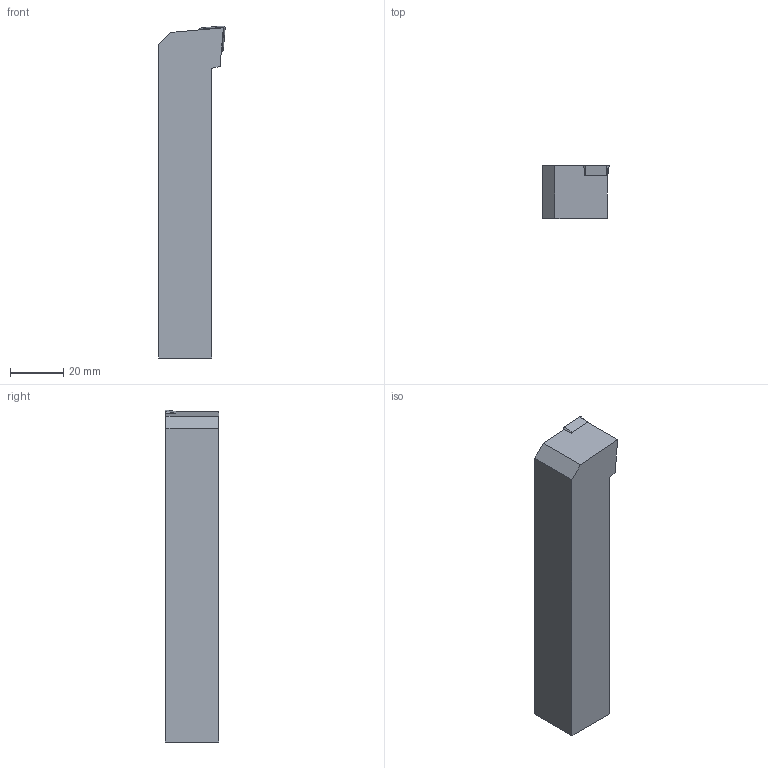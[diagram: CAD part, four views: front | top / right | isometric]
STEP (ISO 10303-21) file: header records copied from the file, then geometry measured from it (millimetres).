
FILE_DESCRIPTION(/* description */ (''),/* implementation_level */ '2;1');
FILE_NAME(/* name */ 'SCLCR2020-K09-HAAS-.stp',/* time_stamp */ '2021-09-28T12:11:00+09:00',/* author */ (''),/* organization */ (''),/* preprocessor_version */ 'ST-DEVELOPER v11',/* originating_system */ 'SIEMENS UGS NX 6.0',/* authorisation */ '');
FILE_SCHEMA (('CONFIG_CONTROL_DESIGN'));
Length unit declared in the file: millimetre
Products named in the file (1): user19614c2d
Bounding box: 24.96 x 20 x 124.96 mm (x, y, z)
Volume: 50294.3 mm3; surface area: 11153.6 mm2
Topology: 2 solids, 2 shells, 22 faces, 54 edges, 36 vertices
Faces by surface type: plane 17, cone 4, cylinder 1
Full cylindrical faces by diameter (mm): 4.4 x1
Entity records: 722 total; most frequent: CARTESIAN_POINT 110, DIRECTION 108, ORIENTED_EDGE 104, EDGE_CURVE 52, LINE 42, VECTOR 42, VERTEX_POINT 35, AXIS2_PLACEMENT_3D 33
